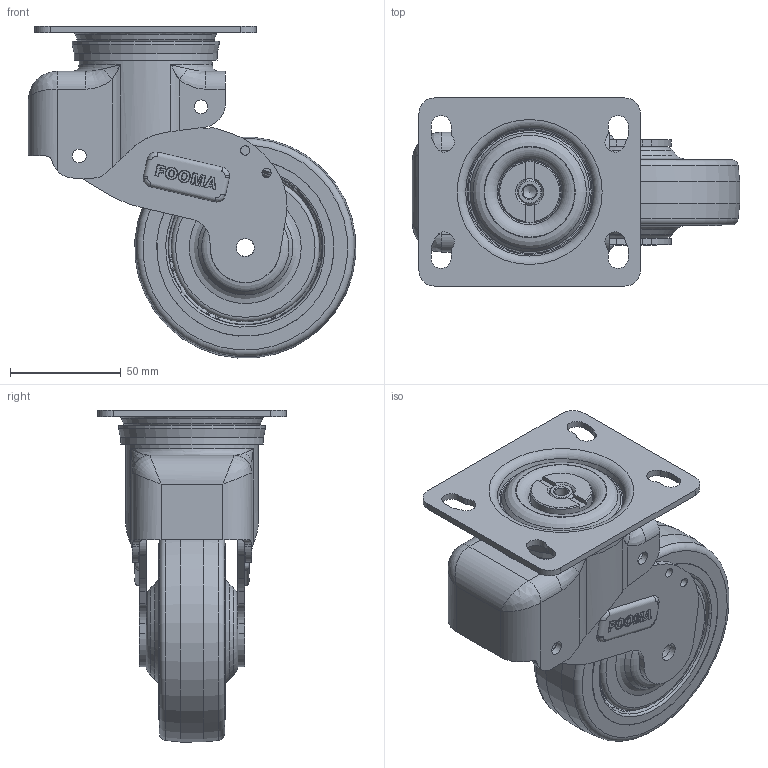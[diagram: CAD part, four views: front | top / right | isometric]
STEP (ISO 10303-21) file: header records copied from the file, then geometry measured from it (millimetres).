
FILE_DESCRIPTION((''),'2;1');
FILE_NAME('C:\Documents and Settings\Administrator\바탕 화면\3D STEP\G-SERIES\G-100\G-100A-SF.stp','2010-12-27T14:32:25',('Administrator'),(''),'Autodesk Inventor 2009','Autodesk Inventor 2009','');
FILE_SCHEMA(('AUTOMOTIVE_DESIGN { 1 0 10303 214 1 1 1 1 }'));
Length unit declared in the file: millimetre
Products named in the file (1): G-100A-SF
Bounding box: 147.86 x 85 x 149.96 mm (x, y, z)
Volume: 306358.8 mm3; surface area: 135556.4 mm2
Topology: 11 solids, 11 shells, 1493 faces, 4090 edges, 2629 vertices
Faces by surface type: bspline 559, plane 498, cylinder 321, torus 77, cone 38
Full cylindrical faces by diameter (mm): 4.2 x4, 5.153 x1, 6 x1, 6.2 x6, 8 x2, 8.2 x4, 12 x5, 13.4 x1, 18 x5, 22 x4, 28 x1, 31 x1, 33 x1, 34 x1, 36 x1, 43 x1, 50 x1, 51 x1, 51.2 x1, 52.8 x1, 54 x1, 54.27 x1, 60 x1, 63 x2, 64.5 x1, 66.4 x1, 67 x2, 100 x1
Entity records: 98787 total; most frequent: CARTESIAN_POINT 64580, ORIENTED_EDGE 7516, DIRECTION 6302, EDGE_CURVE 3758, VERTEX_POINT 2543, AXIS2_PLACEMENT_3D 2449, EDGE_LOOP 1799, FACE_OUTER_BOUND 1493
